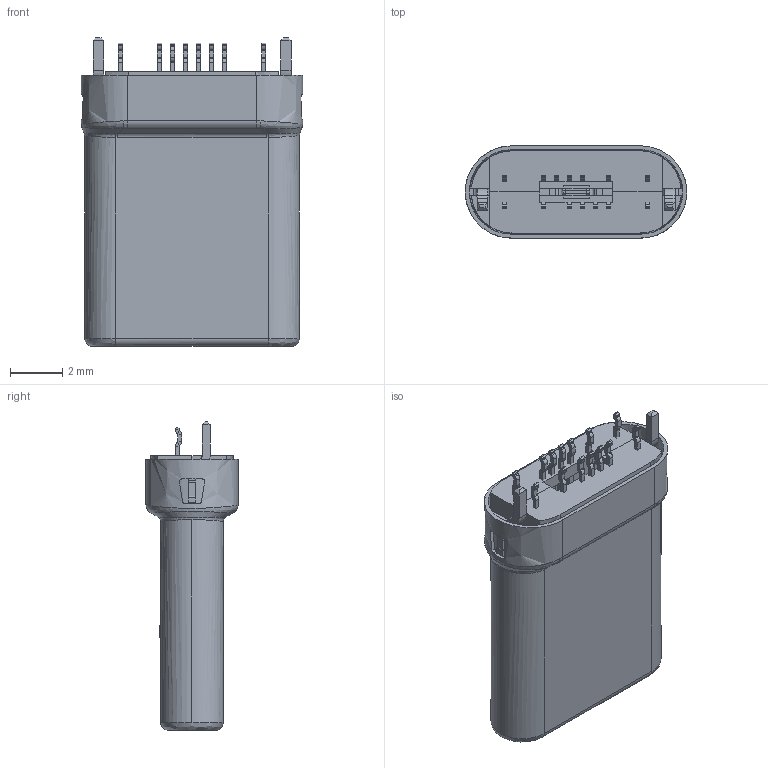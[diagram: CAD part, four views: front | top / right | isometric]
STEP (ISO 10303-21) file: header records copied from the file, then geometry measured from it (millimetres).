
FILE_DESCRIPTION (( 'STEP AP203' ), '1' );
FILE_NAME ('GT-USB-8003A.STEP', '2024-10-21T08:44:13', ( '' ), ( '' ), 'SwSTEP 2.0', 'SolidWorks 2023', '' );
FILE_SCHEMA (( 'CONFIG_CONTROL_DESIGN' ));
Length unit declared in the file: millimetre
Products named in the file (1): GT-USB-8003A
Bounding box: 8.5 x 3.54 x 11.84 mm (x, y, z)
Surface area: 1413 mm2 (no closed solid volume)
Topology: 0 solids, 426 shells, 4029 faces, 13780 edges, 9713 vertices
Faces by surface type: bspline 3844, plane 185
Entity records: 155407 total; most frequent: CARTESIAN_POINT 79506, ORIENTED_EDGE 23016, EDGE_CURVE 13772, B_SPLINE_CURVE_WITH_KNOTS 11552, VERTEX_POINT 9713, EDGE_LOOP 4181, FACE_OUTER_BOUND 4029, ADVANCED_FACE 4029
